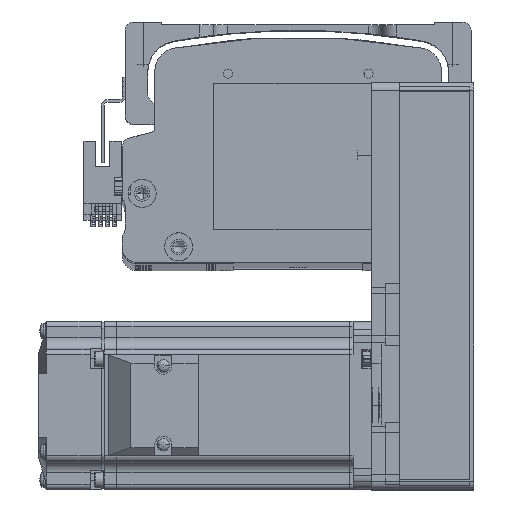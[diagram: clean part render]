
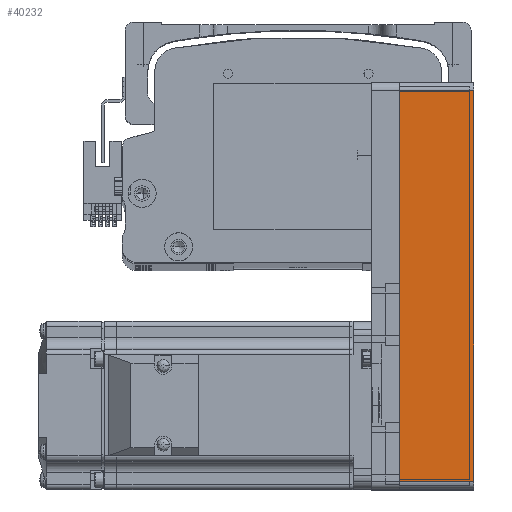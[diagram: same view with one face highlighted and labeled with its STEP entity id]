
A CAD part, top view. The second image highlights one B-rep face of the part: STEP entity #40232.
In plain terms, the highlighted planar face has unit normal (0, 0, 1) as drawn and (0, -1, 0) by its records, which use the part's own axes.
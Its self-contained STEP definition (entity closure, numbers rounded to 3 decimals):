
#8214 = FACE_OUTER_BOUND ( 'NONE', #41547, .T. ) ;
#9934 = LINE ( 'NONE', #86647, #81191 ) ;
#11391 = VECTOR ( 'NONE', #81424, 1000. ) ;
#15389 = ORIENTED_EDGE ( 'NONE', *, *, #32197, .T. ) ;
#17266 = VERTEX_POINT ( 'NONE', #46305 ) ;
#19466 = ORIENTED_EDGE ( 'NONE', *, *, #86814, .T. ) ;
#27887 = PLANE ( 'NONE',  #86915 ) ;
#32197 = EDGE_CURVE ( 'NONE', #38867, #17266, #64767, .T. ) ;
#34934 = DIRECTION ( 'NONE',  ( 0., 1., 0. ) ) ;
#38185 = EDGE_CURVE ( 'NONE', #57475, #38867, #49513, .T. ) ;
#38867 = VERTEX_POINT ( 'NONE', #66383 ) ;
#39876 = ORIENTED_EDGE ( 'NONE', *, *, #38185, .T. ) ;
#40232 = ADVANCED_FACE ( 'NONE', ( #8214 ), #27887, .F. ) ;
#41547 = EDGE_LOOP ( 'NONE', ( #39876, #15389, #72596, #19466 ) ) ;
#43896 = VERTEX_POINT ( 'NONE', #44164 ) ;
#44164 = CARTESIAN_POINT ( 'NONE',  ( -69.5, -30., 26.5 ) ) ;
#46305 = CARTESIAN_POINT ( 'NONE',  ( 69.5, -30., 26.5 ) ) ;
#46497 = DIRECTION ( 'NONE',  ( 0., 0., -1. ) ) ;
#47415 = VECTOR ( 'NONE', #82728, 1000. ) ;
#49513 = LINE ( 'NONE', #69479, #47415 ) ;
#50446 = LINE ( 'NONE', #77067, #86125 ) ;
#57475 = VERTEX_POINT ( 'NONE', #61475 ) ;
#61475 = CARTESIAN_POINT ( 'NONE',  ( -69.5, -30., 0. ) ) ;
#64767 = LINE ( 'NONE', #81723, #11391 ) ;
#66383 = CARTESIAN_POINT ( 'NONE',  ( 69.5, -30., 0. ) ) ;
#69479 = CARTESIAN_POINT ( 'NONE',  ( 72.5, -30., 0. ) ) ;
#72596 = ORIENTED_EDGE ( 'NONE', *, *, #81947, .F. ) ;
#74967 = CARTESIAN_POINT ( 'NONE',  ( 72.5, -30., 26.5 ) ) ;
#76774 = DIRECTION ( 'NONE',  ( 1., 0., 0. ) ) ;
#77067 = CARTESIAN_POINT ( 'NONE',  ( 72.5, -30., 26.5 ) ) ;
#81191 = VECTOR ( 'NONE', #46497, 1000. ) ;
#81424 = DIRECTION ( 'NONE',  ( 0., 0., 1. ) ) ;
#81723 = CARTESIAN_POINT ( 'NONE',  ( 69.5, -30., 26.5 ) ) ;
#81775 = DIRECTION ( 'NONE',  ( -1., 0., 0. ) ) ;
#81947 = EDGE_CURVE ( 'NONE', #43896, #17266, #50446, .T. ) ;
#82728 = DIRECTION ( 'NONE',  ( 1., 0., 0. ) ) ;
#86125 = VECTOR ( 'NONE', #76774, 1000. ) ;
#86647 = CARTESIAN_POINT ( 'NONE',  ( -69.5, -30., 26.5 ) ) ;
#86814 = EDGE_CURVE ( 'NONE', #43896, #57475, #9934, .T. ) ;
#86915 = AXIS2_PLACEMENT_3D ( 'NONE', #74967, #34934, #81775 ) ;
